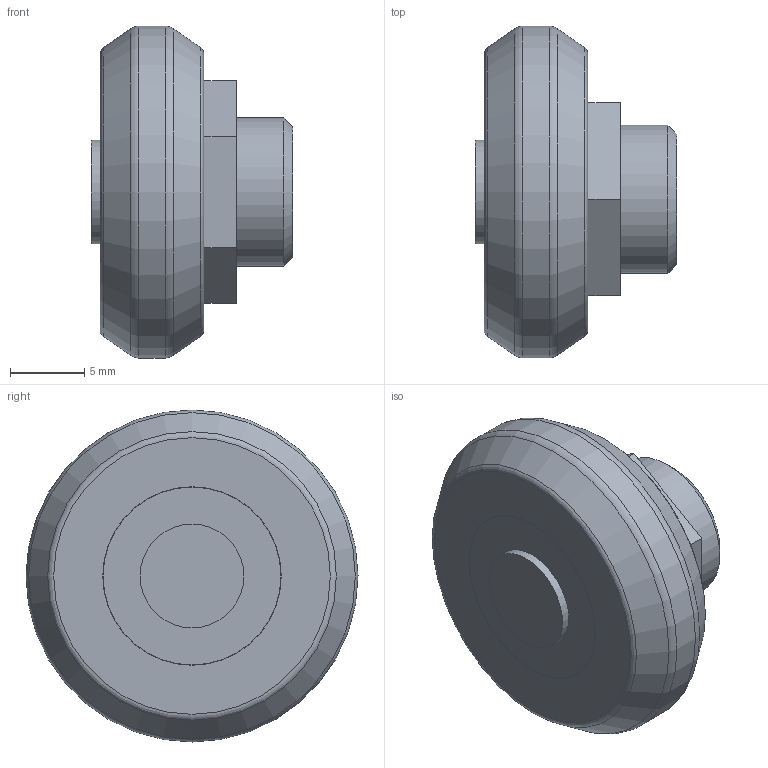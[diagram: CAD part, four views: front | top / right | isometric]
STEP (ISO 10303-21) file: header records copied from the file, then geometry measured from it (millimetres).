
FILE_DESCRIPTION( ( 'STEP AP203' ), '1' );
FILE_NAME( 'C:/Temp/Ganter_Step_05_03_2020/data/3_8/gn2426/Track GN 2426-28-E-2RS.stp', '2020-03-12T15:07:24', ( 'License CC BY-ND 4.0' ), ( 'CADENAS' ), ' ', 'PARTsolutions', ' ' );
FILE_SCHEMA( ( 'CONFIG_CONTROL_DESIGN' ) );
Length unit declared in the file: millimetre
Products named in the file (1): _Track GN 2426-28-E-2RS
Bounding box: 13.6 x 22.4 x 22.4 mm (x, y, z)
Volume: 2999.8 mm3; surface area: 1453.3 mm2
Topology: 1 solids, 1 shells, 28 faces, 54 edges, 33 vertices
Faces by surface type: plane 13, cylinder 6, cone 5, torus 4
Full cylindrical faces by diameter (mm): 4.134 x1, 7 x1, 10 x1, 12 x1, 12.04 x1, 22.4 x1
Entity records: 670 total; most frequent: DIRECTION 116, CARTESIAN_POINT 100, ORIENTED_EDGE 76, AXIS2_PLACEMENT_3D 49, EDGE_LOOP 48, FACE_OUTER_BOUND 38, EDGE_CURVE 38, VERTEX_POINT 33
